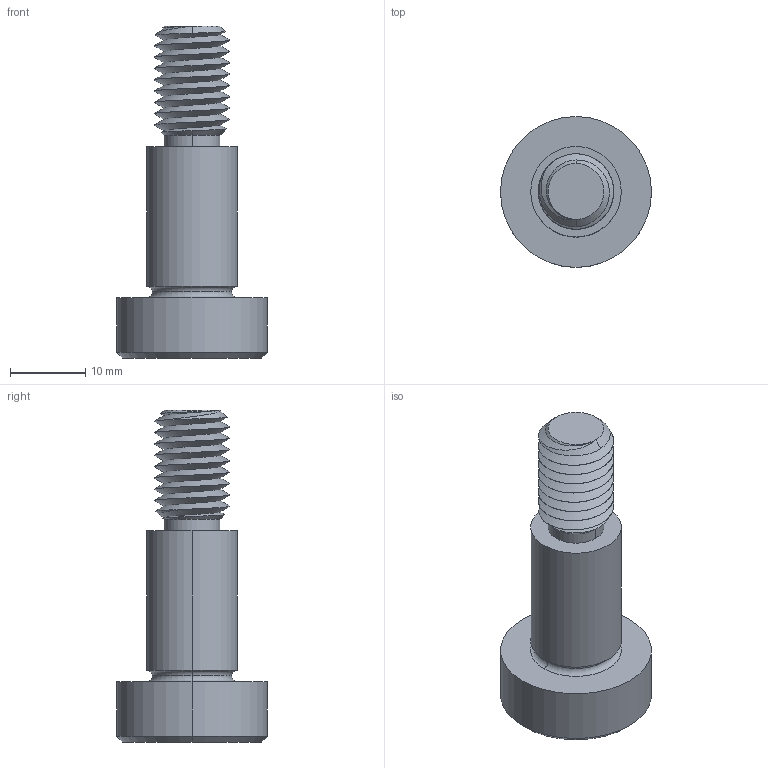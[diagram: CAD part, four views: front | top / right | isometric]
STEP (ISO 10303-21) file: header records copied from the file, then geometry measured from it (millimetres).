
FILE_DESCRIPTION (( 'STEP AP203' ), '1' );
FILE_NAME ('P0130.120-020-B2.step', '2021-11-09T22:04:08', ( '' ), ( '' ), 'SwSTEP 2.0', 'SolidWorks 2019', '' );
FILE_SCHEMA (( 'CONFIG_CONTROL_DESIGN' ));
Length unit declared in the file: millimetre
Products named in the file (1): P0130.120-020-B2
Bounding box: 20 x 20 x 44 mm (x, y, z)
Volume: 5440.1 mm3; surface area: 2811.2 mm2
Topology: 1 solids, 1 shells, 60 faces, 142 edges, 85 vertices
Faces by surface type: cylinder 23, plane 16, cone 15, torus 4, bspline 2
Entity records: 3534 total; most frequent: CARTESIAN_POINT 2187, ORIENTED_EDGE 280, DIRECTION 247, EDGE_CURVE 140, AXIS2_PLACEMENT_3D 99, VERTEX_POINT 85, EDGE_LOOP 63, ADVANCED_FACE 60
